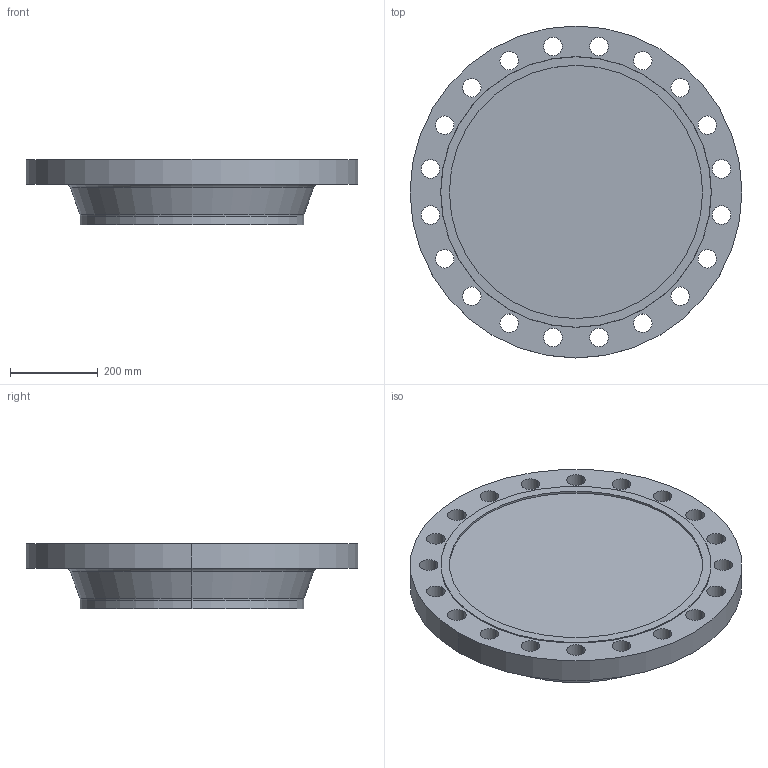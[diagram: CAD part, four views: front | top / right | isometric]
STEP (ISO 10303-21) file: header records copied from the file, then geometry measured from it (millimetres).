
FILE_DESCRIPTION (( 'STEP AP214' ), '1' );
FILE_NAME ('PN40 DN500 Type 21(ii) - Type F Face.STEP', '2018-12-29T04:21:46', ( '' ), ( '' ), 'SwSTEP 2.0', 'SolidWorks 2019', '' );
FILE_SCHEMA (( 'AUTOMOTIVE_DESIGN' ));
Length unit declared in the file: millimetre
Products named in the file (1): PN40 DN500 Type 21(ii) - Type F Face
Bounding box: 755 x 755 x 150 mm (x, y, z)
Volume: 42759347.5 mm3; surface area: 1242780.9 mm2
Topology: 1 solids, 1 shells, 59 faces, 156 edges, 102 vertices
Faces by surface type: cylinder 46, plane 5, torus 4, cone 4
Entity records: 2002 total; most frequent: DIRECTION 382, CARTESIAN_POINT 318, ORIENTED_EDGE 312, AXIS2_PLACEMENT_3D 166, EDGE_CURVE 156, CIRCLE 106, EDGE_LOOP 102, VERTEX_POINT 102
